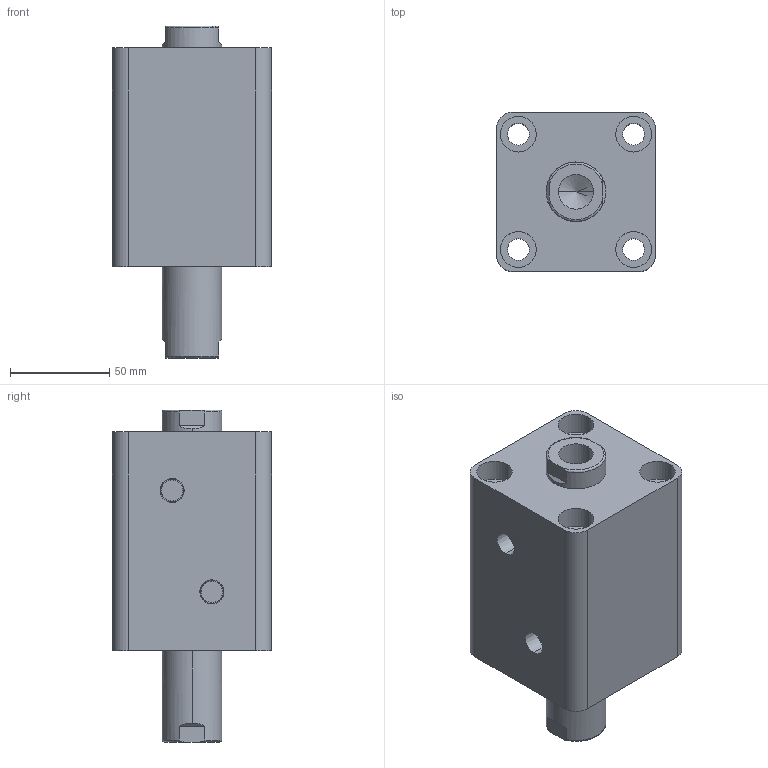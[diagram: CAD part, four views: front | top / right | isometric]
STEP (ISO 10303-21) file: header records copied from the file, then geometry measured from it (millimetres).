
FILE_DESCRIPTION (( 'STEP AP203' ), '1' );
FILE_NAME ('HTB-SW50-35N.STEP', '2019-10-07T09:19:26', ( '微软用户' ), ( '微软中国' ), 'SwSTEP 2.0', 'SolidWorks 2012', '' );
FILE_SCHEMA (( 'CONFIG_CONTROL_DESIGN' ));
Length unit declared in the file: millimetre
Products named in the file (3): HTB-SW50-35N; HTB-SW50-35N活塞杆; HTB-SW50-35掛极
Assembly tree (2 placements, depth 2):
  HTB-SW50-35N
    HTB-SW50-35掛极
    HTB-SW50-35N活塞杆
Bounding box: 80 x 80 x 167 mm (x, y, z)
Volume: 623041.2 mm3; surface area: 102127.4 mm2
Topology: 2 solids, 2 shells, 100 faces, 228 edges, 146 vertices
Faces by surface type: cylinder 48, plane 32, torus 12, cone 8
Entity records: 3237 total; most frequent: CARTESIAN_POINT 595, DIRECTION 542, ORIENTED_EDGE 448, AXIS2_PLACEMENT_3D 229, EDGE_CURVE 224, VERTEX_POINT 146, EDGE_LOOP 128, CIRCLE 124
